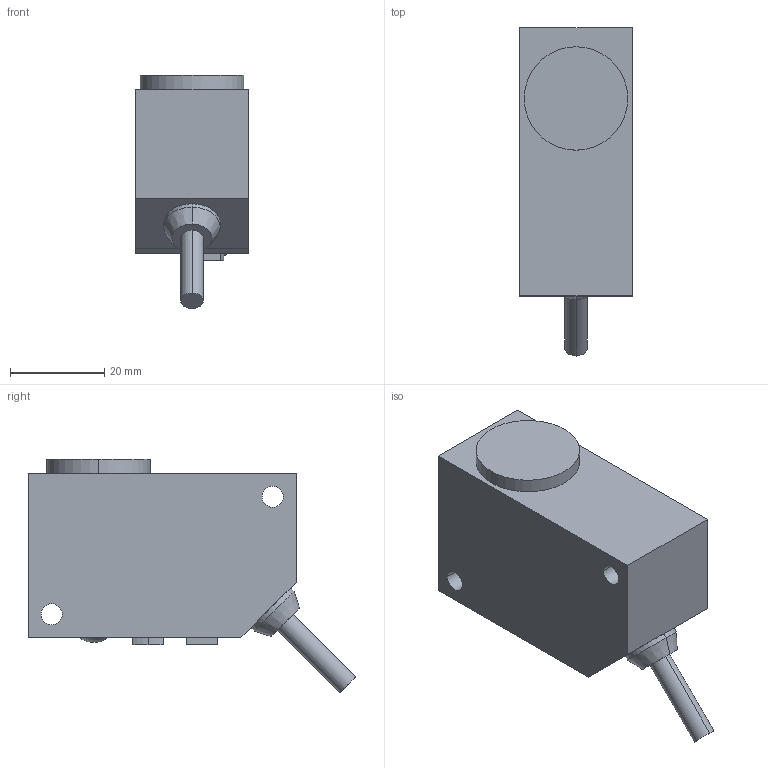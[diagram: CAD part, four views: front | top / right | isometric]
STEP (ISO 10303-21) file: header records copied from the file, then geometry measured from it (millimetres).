
FILE_DESCRIPTION (( 'STEP AP203' ), '1' );
FILE_NAME ('lx-111.STEP', '2012-11-16T07:25:57', ( 'admin' ), ( '' ), 'SwSTEP 2.0', 'SolidWorks 2010', '' );
FILE_SCHEMA (( 'CONFIG_CONTROL_DESIGN' ));
Length unit declared in the file: millimetre
Products named in the file (1): lx-111
Bounding box: 24 x 69.7 x 49.7 mm (x, y, z)
Volume: 47422.6 mm3; surface area: 9411 mm2
Topology: 1 solids, 2 shells, 44 faces, 99 edges, 65 vertices
Faces by surface type: plane 21, cylinder 17, cone 4, sphere 2
Entity records: 1329 total; most frequent: DIRECTION 230, CARTESIAN_POINT 212, ORIENTED_EDGE 198, EDGE_CURVE 99, AXIS2_PLACEMENT_3D 87, VERTEX_POINT 65, EDGE_LOOP 56, LINE 56
